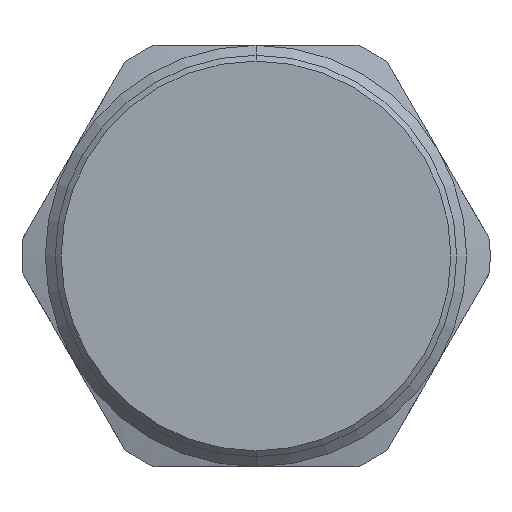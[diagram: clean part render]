
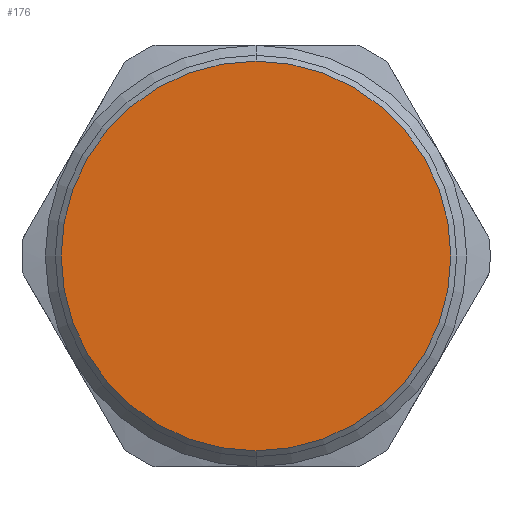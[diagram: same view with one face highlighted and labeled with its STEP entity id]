
A CAD part, front view. The second image highlights one B-rep face of the part: STEP entity #176.
In plain terms, the highlighted planar face has unit normal (0, -1, 0).
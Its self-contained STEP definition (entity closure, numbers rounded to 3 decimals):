
#151=CARTESIAN_POINT('',(0.0,-20.0,16.65));
#152=VERTEX_POINT('',#151);
#153=CARTESIAN_POINT('',(0.0,-20.0,-16.65));
#154=VERTEX_POINT('',#153);
#155=CARTESIAN_POINT('',(0.0,-20.0,0.0));
#156=DIRECTION('',(0.0,-1.0,0.0));
#157=DIRECTION('',(0.0,0.0,1.0));
#158=AXIS2_PLACEMENT_3D('',#155,#156,#157);
#159=CIRCLE('',#158,16.65);
#160=EDGE_CURVE('no 707',#152,#154,#159,.T.);
#161=ORIENTED_EDGE('',*,*,#160,.T.);
#162=CARTESIAN_POINT('',(0.0,-20.0,0.0));
#163=DIRECTION('',(0.0,-1.0,0.0));
#164=DIRECTION('',(0.0,0.0,1.0));
#165=AXIS2_PLACEMENT_3D('',#162,#163,#164);
#166=CIRCLE('',#165,16.65);
#167=EDGE_CURVE('no 711',#154,#152,#166,.T.);
#168=ORIENTED_EDGE('',*,*,#167,.T.);
#169=EDGE_LOOP('',(#161,#168));
#170=FACE_OUTER_BOUND('',#169,.T.);
#171=CARTESIAN_POINT('',(0.0,-20.0,0.0));
#172=DIRECTION('',(0.0,1.0,0.0));
#173=DIRECTION('',(0.0,0.0,1.0));
#174=AXIS2_PLACEMENT_3D('',#171,#172,#173);
#175=PLANE('',#174);
#176=ADVANCED_FACE('no 698',(#170),#175,.F.);
